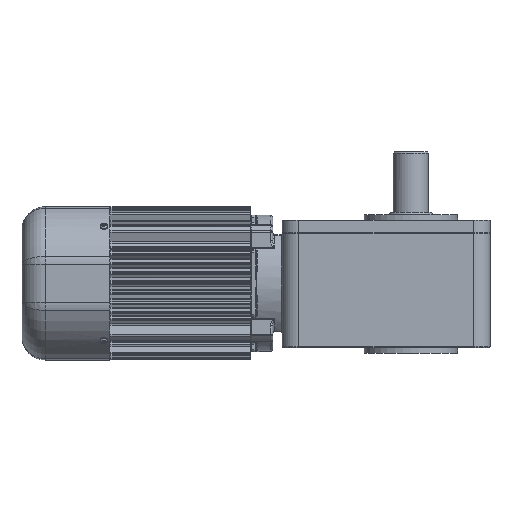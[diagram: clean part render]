
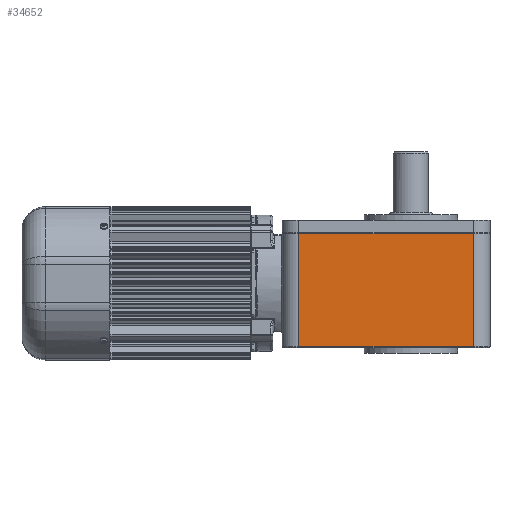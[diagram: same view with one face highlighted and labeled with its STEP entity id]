
A CAD part, front view. The second image highlights one B-rep face of the part: STEP entity #34652.
In plain terms, the highlighted planar face has unit normal (0, -1, 0).
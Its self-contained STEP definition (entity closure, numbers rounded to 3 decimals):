
#1204=LINE('',#58743,#3702);
#1208=LINE('',#58755,#3706);
#1209=LINE('',#58757,#3707);
#1210=LINE('',#58758,#3708);
#3702=VECTOR('',#42914,103.);
#3706=VECTOR('',#42928,159.);
#3707=VECTOR('',#42929,159.);
#3708=VECTOR('',#42930,103.);
#7319=FACE_OUTER_BOUND('',#9387,.T.);
#9387=EDGE_LOOP('',(#24010,#24011,#24012,#24013));
#14108=VERTEX_POINT('',#58737);
#14110=VERTEX_POINT('',#58741);
#14113=VERTEX_POINT('',#58754);
#14114=VERTEX_POINT('',#58756);
#17792=EDGE_CURVE('',#14110,#14108,#1204,.T.);
#17798=EDGE_CURVE('',#14108,#14113,#1208,.T.);
#17799=EDGE_CURVE('',#14114,#14110,#1209,.T.);
#17800=EDGE_CURVE('',#14114,#14113,#1210,.T.);
#24010=ORIENTED_EDGE('',*,*,#17798,.F.);
#24011=ORIENTED_EDGE('',*,*,#17792,.F.);
#24012=ORIENTED_EDGE('',*,*,#17799,.F.);
#24013=ORIENTED_EDGE('',*,*,#17800,.T.);
#31841=PLANE('',#37227);
#34652=ADVANCED_FACE('',(#7319),#31841,.T.);
#37227=AXIS2_PLACEMENT_3D('',#58753,#42926,#42927);
#42914=DIRECTION('',(0.,0.,-1.));
#42926=DIRECTION('center_axis',(0.,-1.,0.));
#42927=DIRECTION('ref_axis',(0.,0.,-1.));
#42928=DIRECTION('',(-1.,0.,0.));
#42929=DIRECTION('',(1.,0.,0.));
#42930=DIRECTION('',(0.,0.,-1.));
#58737=CARTESIAN_POINT('',(57.,-104.,-57.5));
#58741=CARTESIAN_POINT('',(57.,-104.,45.5));
#58743=CARTESIAN_POINT('',(57.,-104.,45.5));
#58753=CARTESIAN_POINT('Origin',(57.,-104.,0.));
#58754=CARTESIAN_POINT('',(-102.,-104.,-57.5));
#58755=CARTESIAN_POINT('',(57.,-104.,-57.5));
#58756=CARTESIAN_POINT('',(-102.,-104.,45.5));
#58757=CARTESIAN_POINT('',(-102.,-104.,45.5));
#58758=CARTESIAN_POINT('',(-102.,-104.,45.5));
